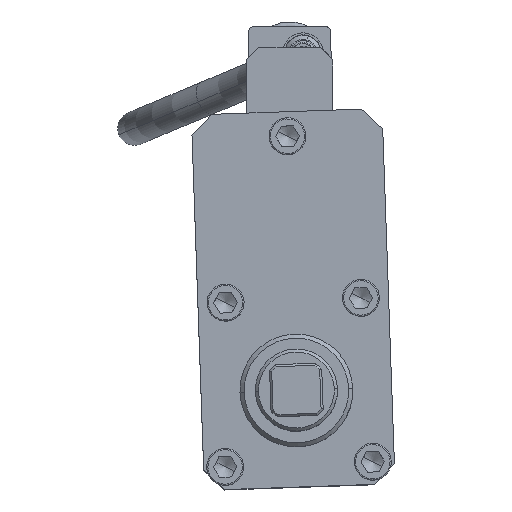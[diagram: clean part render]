
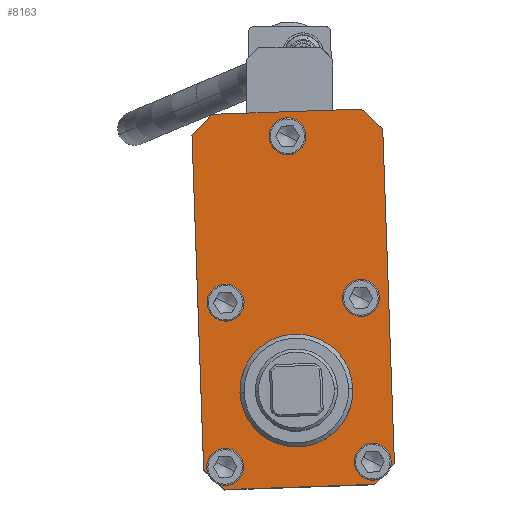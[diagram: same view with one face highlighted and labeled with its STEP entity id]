
A CAD part, top view. The second image highlights one B-rep face of the part: STEP entity #8163.
In plain terms, the highlighted planar face has unit normal (0, 0, 1).
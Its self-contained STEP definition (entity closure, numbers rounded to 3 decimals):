
#7792=AXIS2_PLACEMENT_3D('Circle Axis2P3D',#7790,#7791,$) ;
#7811=AXIS2_PLACEMENT_3D('Circle Axis2P3D',#7809,#7810,$) ;
#8020=AXIS2_PLACEMENT_3D('Circle Axis2P3D',#8018,#8019,$) ;
#8051=AXIS2_PLACEMENT_3D('Circle Axis2P3D',#8049,#8050,$) ;
#8071=AXIS2_PLACEMENT_3D('Plane Axis2P3D',#8068,#8069,#8070) ;
#8093=AXIS2_PLACEMENT_3D('Circle Axis2P3D',#8091,#8092,$) ;
#8102=AXIS2_PLACEMENT_3D('Circle Axis2P3D',#8100,#8101,$) ;
#8111=AXIS2_PLACEMENT_3D('Circle Axis2P3D',#8109,#8110,$) ;
#8120=AXIS2_PLACEMENT_3D('Circle Axis2P3D',#8118,#8119,$) ;
#8129=AXIS2_PLACEMENT_3D('Circle Axis2P3D',#8127,#8128,$) ;
#8138=AXIS2_PLACEMENT_3D('Circle Axis2P3D',#8136,#8137,$) ;
#8147=AXIS2_PLACEMENT_3D('Circle Axis2P3D',#8145,#8146,$) ;
#8156=AXIS2_PLACEMENT_3D('Circle Axis2P3D',#8154,#8155,$) ;
#7787=CARTESIAN_POINT('Vertex',(30.779,-93.413,678.6)) ;
#7790=CARTESIAN_POINT('Axis2P3D Location',(3.296,-94.372,678.6)) ;
#7794=CARTESIAN_POINT('Vertex',(-24.188,-95.332,678.6)) ;
#7809=CARTESIAN_POINT('Axis2P3D Location',(3.296,-94.372,678.6)) ;
#7830=CARTESIAN_POINT('Vertex',(-31.542,-142.618,678.6)) ;
#7833=CARTESIAN_POINT('Line Origine',(-36.713,-137.795,678.6)) ;
#7837=CARTESIAN_POINT('Vertex',(-41.885,-132.973,678.6)) ;
#7861=CARTESIAN_POINT('Vertex',(41.414,-140.07,678.6)) ;
#7864=CARTESIAN_POINT('Line Origine',(4.936,-141.344,678.6)) ;
#7885=CARTESIAN_POINT('Vertex',(51.059,-129.727,678.6)) ;
#7888=CARTESIAN_POINT('Line Origine',(46.236,-134.899,678.6)) ;
#7909=CARTESIAN_POINT('Vertex',(45.37,33.174,678.6)) ;
#7912=CARTESIAN_POINT('Line Origine',(48.214,-48.277,678.6)) ;
#7933=CARTESIAN_POINT('Vertex',(35.027,42.819,678.6)) ;
#7936=CARTESIAN_POINT('Line Origine',(40.198,37.996,678.6)) ;
#7953=CARTESIAN_POINT('Line Origine',(-1.451,41.545,678.6)) ;
#7957=CARTESIAN_POINT('Vertex',(-37.929,40.271,678.6)) ;
#7981=CARTESIAN_POINT('Vertex',(-47.573,29.928,678.6)) ;
#7984=CARTESIAN_POINT('Line Origine',(-42.751,35.099,678.6)) ;
#8001=CARTESIAN_POINT('Line Origine',(-44.729,-51.522,678.6)) ;
#8018=CARTESIAN_POINT('Axis2P3D Location',(-31.426,-131.607,678.6)) ;
#8022=CARTESIAN_POINT('Vertex',(-26.463,-134.097,678.6)) ;
#8024=CARTESIAN_POINT('Vertex',(-36.389,-129.116,678.6)) ;
#8049=CARTESIAN_POINT('Axis2P3D Location',(-31.426,-131.607,678.6)) ;
#8068=CARTESIAN_POINT('Axis2P3D Location',(3.296,-94.372,678.6)) ;
#8091=CARTESIAN_POINT('Axis2P3D Location',(-31.22,-51.551,678.6)) ;
#8095=CARTESIAN_POINT('Vertex',(-36.183,-49.06,678.6)) ;
#8097=CARTESIAN_POINT('Vertex',(-26.257,-54.042,678.6)) ;
#8100=CARTESIAN_POINT('Axis2P3D Location',(-31.22,-51.551,678.6)) ;
#8109=CARTESIAN_POINT('Axis2P3D Location',(34.74,-49.248,678.6)) ;
#8113=CARTESIAN_POINT('Vertex',(29.777,-46.757,678.6)) ;
#8115=CARTESIAN_POINT('Vertex',(39.703,-51.738,678.6)) ;
#8118=CARTESIAN_POINT('Axis2P3D Location',(34.74,-49.248,678.6)) ;
#8127=CARTESIAN_POINT('Axis2P3D Location',(40.53,-129.094,678.6)) ;
#8131=CARTESIAN_POINT('Vertex',(35.567,-126.604,678.6)) ;
#8133=CARTESIAN_POINT('Vertex',(45.493,-131.585,678.6)) ;
#8136=CARTESIAN_POINT('Axis2P3D Location',(40.53,-129.094,678.6)) ;
#8145=CARTESIAN_POINT('Axis2P3D Location',(-1.032,29.552,678.6)) ;
#8149=CARTESIAN_POINT('Vertex',(-5.995,32.043,678.6)) ;
#8151=CARTESIAN_POINT('Vertex',(3.931,27.061,678.6)) ;
#8154=CARTESIAN_POINT('Axis2P3D Location',(-1.032,29.552,678.6)) ;
#7791=DIRECTION('Axis2P3D Direction',(0.,0.,1.)) ;
#7810=DIRECTION('Axis2P3D Direction',(0.,0.,1.)) ;
#7834=DIRECTION('Vector Direction',(0.731,-0.682,0.)) ;
#7865=DIRECTION('Vector Direction',(-0.999,-0.035,0.)) ;
#7889=DIRECTION('Vector Direction',(-0.682,-0.731,0.)) ;
#7913=DIRECTION('Vector Direction',(0.035,-0.999,0.)) ;
#7937=DIRECTION('Vector Direction',(-0.731,0.682,0.)) ;
#7954=DIRECTION('Vector Direction',(0.999,0.035,0.)) ;
#7985=DIRECTION('Vector Direction',(0.682,0.731,0.)) ;
#8002=DIRECTION('Vector Direction',(-0.035,0.999,0.)) ;
#8019=DIRECTION('Axis2P3D Direction',(0.,0.,1.)) ;
#8050=DIRECTION('Axis2P3D Direction',(0.,0.,1.)) ;
#8069=DIRECTION('Axis2P3D Direction',(-0.,0.,-1.)) ;
#8070=DIRECTION('Axis2P3D XDirection',(-0.999,-0.035,0.)) ;
#8092=DIRECTION('Axis2P3D Direction',(-0.,0.,-1.)) ;
#8101=DIRECTION('Axis2P3D Direction',(-0.,0.,-1.)) ;
#8110=DIRECTION('Axis2P3D Direction',(-0.,0.,-1.)) ;
#8119=DIRECTION('Axis2P3D Direction',(-0.,0.,-1.)) ;
#8128=DIRECTION('Axis2P3D Direction',(-0.,0.,-1.)) ;
#8137=DIRECTION('Axis2P3D Direction',(-0.,0.,-1.)) ;
#8146=DIRECTION('Axis2P3D Direction',(-0.,0.,-1.)) ;
#8155=DIRECTION('Axis2P3D Direction',(-0.,0.,-1.)) ;
#7835=VECTOR('Line Direction',#7834,1.) ;
#7866=VECTOR('Line Direction',#7865,1.) ;
#7890=VECTOR('Line Direction',#7889,1.) ;
#7914=VECTOR('Line Direction',#7913,1.) ;
#7938=VECTOR('Line Direction',#7937,1.) ;
#7955=VECTOR('Line Direction',#7954,1.) ;
#7986=VECTOR('Line Direction',#7985,1.) ;
#8003=VECTOR('Line Direction',#8002,1.) ;
#8074=ORIENTED_EDGE('',*,*,#7839,.F.) ;
#8075=ORIENTED_EDGE('',*,*,#7868,.F.) ;
#8076=ORIENTED_EDGE('',*,*,#7892,.F.) ;
#8077=ORIENTED_EDGE('',*,*,#7916,.F.) ;
#8078=ORIENTED_EDGE('',*,*,#7940,.F.) ;
#8079=ORIENTED_EDGE('',*,*,#7959,.F.) ;
#8080=ORIENTED_EDGE('',*,*,#7988,.F.) ;
#8081=ORIENTED_EDGE('',*,*,#8005,.F.) ;
#8084=ORIENTED_EDGE('',*,*,#8026,.T.) ;
#8085=ORIENTED_EDGE('',*,*,#8053,.T.) ;
#8088=ORIENTED_EDGE('',*,*,#7796,.F.) ;
#8089=ORIENTED_EDGE('',*,*,#7813,.F.) ;
#8106=ORIENTED_EDGE('',*,*,#8099,.T.) ;
#8107=ORIENTED_EDGE('',*,*,#8104,.T.) ;
#8124=ORIENTED_EDGE('',*,*,#8117,.T.) ;
#8125=ORIENTED_EDGE('',*,*,#8122,.T.) ;
#8142=ORIENTED_EDGE('',*,*,#8135,.T.) ;
#8143=ORIENTED_EDGE('',*,*,#8140,.T.) ;
#8160=ORIENTED_EDGE('',*,*,#8153,.T.) ;
#8161=ORIENTED_EDGE('',*,*,#8158,.T.) ;
#8086=FACE_BOUND('',#8083,.T.) ;
#8090=FACE_BOUND('',#8087,.T.) ;
#8108=FACE_BOUND('',#8105,.T.) ;
#8126=FACE_BOUND('',#8123,.T.) ;
#8144=FACE_BOUND('',#8141,.T.) ;
#8162=FACE_BOUND('',#8159,.T.) ;
#8163=ADVANCED_FACE('AO3425.1\\AO3425_Gehaeuse.1\\Hauptk\X2\00F6\X0\rper',(#8082,#8086,#8090,#8108,#8126,#8144,#8162),#8072,.F.) ;
#7793=CIRCLE('generated circle',#7792,27.5) ;
#7812=CIRCLE('generated circle',#7811,27.5) ;
#8021=CIRCLE('generated circle',#8020,5.553) ;
#8052=CIRCLE('generated circle',#8051,5.553) ;
#8094=CIRCLE('generated circle',#8093,5.553) ;
#8103=CIRCLE('generated circle',#8102,5.553) ;
#8112=CIRCLE('generated circle',#8111,5.553) ;
#8121=CIRCLE('generated circle',#8120,5.553) ;
#8130=CIRCLE('generated circle',#8129,5.553) ;
#8139=CIRCLE('generated circle',#8138,5.553) ;
#8148=CIRCLE('generated circle',#8147,5.553) ;
#8157=CIRCLE('generated circle',#8156,5.553) ;
#7796=EDGE_CURVE('',#7788,#7795,#7793,.T.) ;
#7813=EDGE_CURVE('',#7795,#7788,#7812,.T.) ;
#7839=EDGE_CURVE('',#7831,#7838,#7836,.F.) ;
#7868=EDGE_CURVE('',#7862,#7831,#7867,.T.) ;
#7892=EDGE_CURVE('',#7886,#7862,#7891,.T.) ;
#7916=EDGE_CURVE('',#7910,#7886,#7915,.T.) ;
#7940=EDGE_CURVE('',#7934,#7910,#7939,.F.) ;
#7959=EDGE_CURVE('',#7958,#7934,#7956,.T.) ;
#7988=EDGE_CURVE('',#7982,#7958,#7987,.T.) ;
#8005=EDGE_CURVE('',#7838,#7982,#8004,.T.) ;
#8026=EDGE_CURVE('',#8023,#8025,#8021,.F.) ;
#8053=EDGE_CURVE('',#8025,#8023,#8052,.F.) ;
#8099=EDGE_CURVE('',#8096,#8098,#8094,.T.) ;
#8104=EDGE_CURVE('',#8098,#8096,#8103,.T.) ;
#8117=EDGE_CURVE('',#8114,#8116,#8112,.T.) ;
#8122=EDGE_CURVE('',#8116,#8114,#8121,.T.) ;
#8135=EDGE_CURVE('',#8132,#8134,#8130,.T.) ;
#8140=EDGE_CURVE('',#8134,#8132,#8139,.T.) ;
#8153=EDGE_CURVE('',#8150,#8152,#8148,.T.) ;
#8158=EDGE_CURVE('',#8152,#8150,#8157,.T.) ;
#8073=EDGE_LOOP('',(#8074,#8075,#8076,#8077,#8078,#8079,#8080,#8081)) ;
#8083=EDGE_LOOP('',(#8084,#8085)) ;
#8087=EDGE_LOOP('',(#8088,#8089)) ;
#8105=EDGE_LOOP('',(#8106,#8107)) ;
#8123=EDGE_LOOP('',(#8124,#8125)) ;
#8141=EDGE_LOOP('',(#8142,#8143)) ;
#8159=EDGE_LOOP('',(#8160,#8161)) ;
#8082=FACE_OUTER_BOUND('',#8073,.T.) ;
#7836=LINE('Line',#7833,#7835) ;
#7867=LINE('Line',#7864,#7866) ;
#7891=LINE('Line',#7888,#7890) ;
#7915=LINE('Line',#7912,#7914) ;
#7939=LINE('Line',#7936,#7938) ;
#7956=LINE('Line',#7953,#7955) ;
#7987=LINE('Line',#7984,#7986) ;
#8004=LINE('Line',#8001,#8003) ;
#8072=PLANE('Plane',#8071) ;
#7788=VERTEX_POINT('',#7787) ;
#7795=VERTEX_POINT('',#7794) ;
#7831=VERTEX_POINT('',#7830) ;
#7838=VERTEX_POINT('',#7837) ;
#7862=VERTEX_POINT('',#7861) ;
#7886=VERTEX_POINT('',#7885) ;
#7910=VERTEX_POINT('',#7909) ;
#7934=VERTEX_POINT('',#7933) ;
#7958=VERTEX_POINT('',#7957) ;
#7982=VERTEX_POINT('',#7981) ;
#8023=VERTEX_POINT('',#8022) ;
#8025=VERTEX_POINT('',#8024) ;
#8096=VERTEX_POINT('',#8095) ;
#8098=VERTEX_POINT('',#8097) ;
#8114=VERTEX_POINT('',#8113) ;
#8116=VERTEX_POINT('',#8115) ;
#8132=VERTEX_POINT('',#8131) ;
#8134=VERTEX_POINT('',#8133) ;
#8150=VERTEX_POINT('',#8149) ;
#8152=VERTEX_POINT('',#8151) ;
